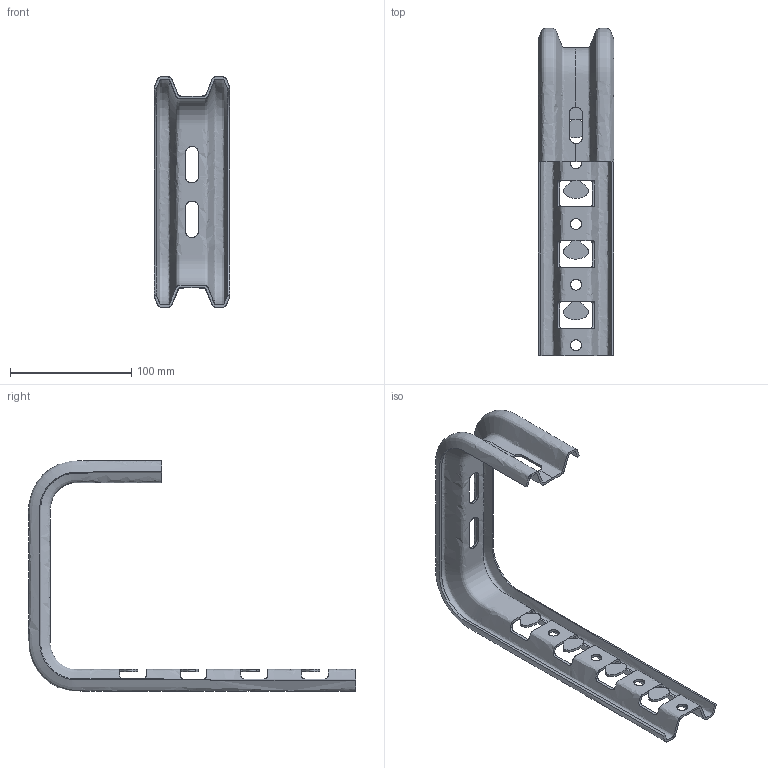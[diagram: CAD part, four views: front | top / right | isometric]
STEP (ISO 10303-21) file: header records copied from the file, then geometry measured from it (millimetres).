
FILE_DESCRIPTION(/* description */ (''),/* implementation_level */ '2;1');
FILE_NAME(/* name */ 'NZMC200',/* time_stamp */ '2012-11-29T22:28:37+01:00',/* author */ (''),/* organization */ (''),/* preprocessor_version */ 'ST-DEVELOPER v10',/* originating_system */ '',/* authorisation */ '');
FILE_SCHEMA (('AUTOMOTIVE_DESIGN_CC2'));
Length unit declared in the file: millimetre
Products named in the file (1): 1
Bounding box: 62.44 x 269.55 x 190.04 mm (x, y, z)
Surface area: 90092.4 mm2 (no closed solid volume)
Topology: 0 solids, 54 shells, 58 faces, 368 edges, 360 vertices
Faces by surface type: bspline 39, plane 19
Entity records: 23099 total; most frequent: CARTESIAN_POINT 20871, ORIENTED_EDGE 376, EDGE_CURVE 368, VERTEX_POINT 360, B_SPLINE_CURVE_WITH_KNOTS 296, EDGE_LOOP 72, ADVANCED_FACE 58, FACE_OUTER_BOUND 58
